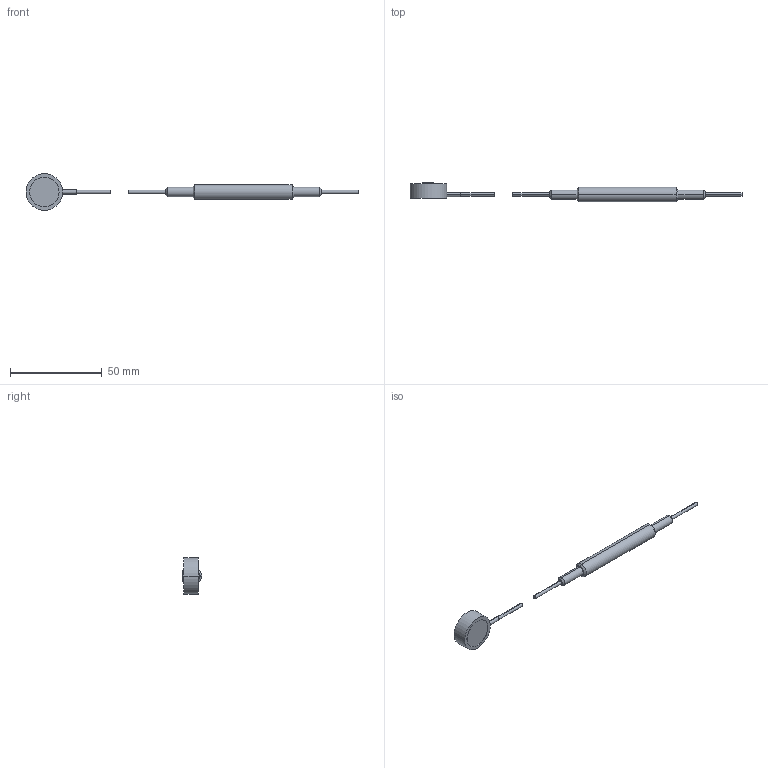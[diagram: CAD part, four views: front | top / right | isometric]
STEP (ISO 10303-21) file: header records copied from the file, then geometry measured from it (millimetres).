
FILE_DESCRIPTION(('STEP AP203'),'1');
FILE_NAME('C:/TPO v2/SharedFS/Outgoing/burster_8415-6005-v010_e2b28p5dyaspyp8o35yuxbwl3.stp','2013-08-27T15:29:03',('TraceParts'),('TraceParts S.A.'),'XStep 1.0',' ',' ');
FILE_SCHEMA(('CONFIG_CONTROL_DESIGN'));
Length unit declared in the file: millimetre
Products named in the file (2): 1; 2
Bounding box: 181.1 x 10.85 x 20 mm (x, y, z)
Volume: 5686.7 mm3; surface area: 3626.6 mm2
Topology: 2 solids, 2 shells, 47 faces, 100 edges, 65 vertices
Faces by surface type: cylinder 22, plane 12, cone 8, torus 4, sphere 1
Entity records: 1417 total; most frequent: DIRECTION 257, CARTESIAN_POINT 255, ORIENTED_EDGE 200, AXIS2_PLACEMENT_3D 113, EDGE_CURVE 100, VERTEX_POINT 65, CIRCLE 64, EDGE_LOOP 55
